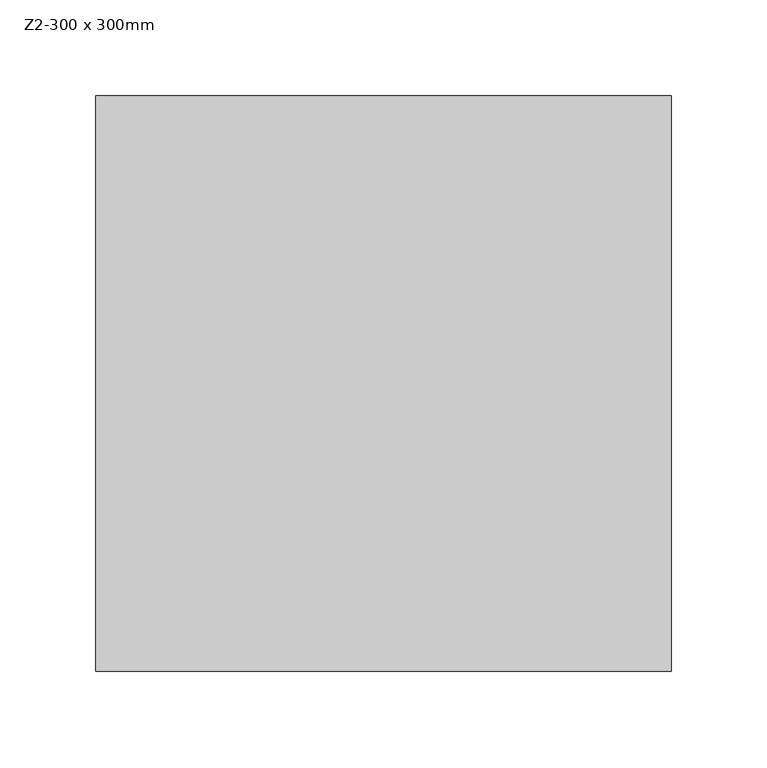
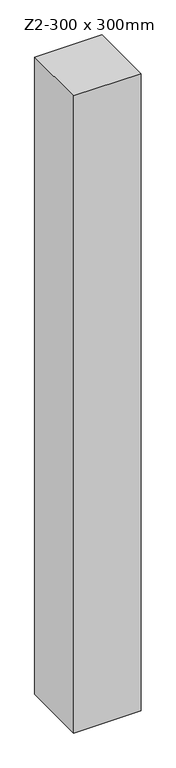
"""IFC4 building model written with IfcOpenShell, lengths in millimetres: column geometry, 混凝土 - 矩形 - 柱 : Z2-300 x 300mm."""

from ifc_helpers import new_model, si_unit, frame, origin, place, context, project, spatial, polyline, outline, extrude, source, transform, mapped, element, save


def z2_300_x_300mm_b37a59b8(model_context):
    return source(origin(), model_context, "Body", "SweptSolid", [
        extrude(outline(polyline([(150.0, 150.0), (150.0, -150.0), (-150.0, -150.0), (-150.0, 150.0), (150.0, 150.0)])), frame((0.0, 0.0, 4200.0), z_axis=(0.0, 0.0, 1.0), x_axis=(1.0, 0.0, 0.0)), (0.0, 0.0, 1.0), 3000.0),
    ])


if __name__ == "__main__":
    model = new_model("IFC4")
    model_context = context("Model", 3, world=origin())
    ifc_project = project(units=[si_unit("LENGTHUNIT", "METRE", prefix="MILLI")], contexts=[model_context])
    site = spatial("IfcSite", under=ifc_project)
    building = spatial("IfcBuilding", under=site)
    placement = place(None, origin())
    z2_300_x_300mm_shape = z2_300_x_300mm_b37a59b8(model_context)
    element("IfcColumn", 1, ObjectType="混凝土 - 矩形 - 柱 : Z2-300 x 300mm", at=placement, inside=building, context=model_context, shape_type="MappedRepresentation", body=[
        mapped(z2_300_x_300mm_shape, transform((0.0, 0.0, 0.0), x_axis=(1.0, 0.0, 0.0), y_axis=(0.0, 1.0, 0.0), z_axis=(0.0, 0.0, 1.0))),
    ])
    save(model, "model.ifc")
